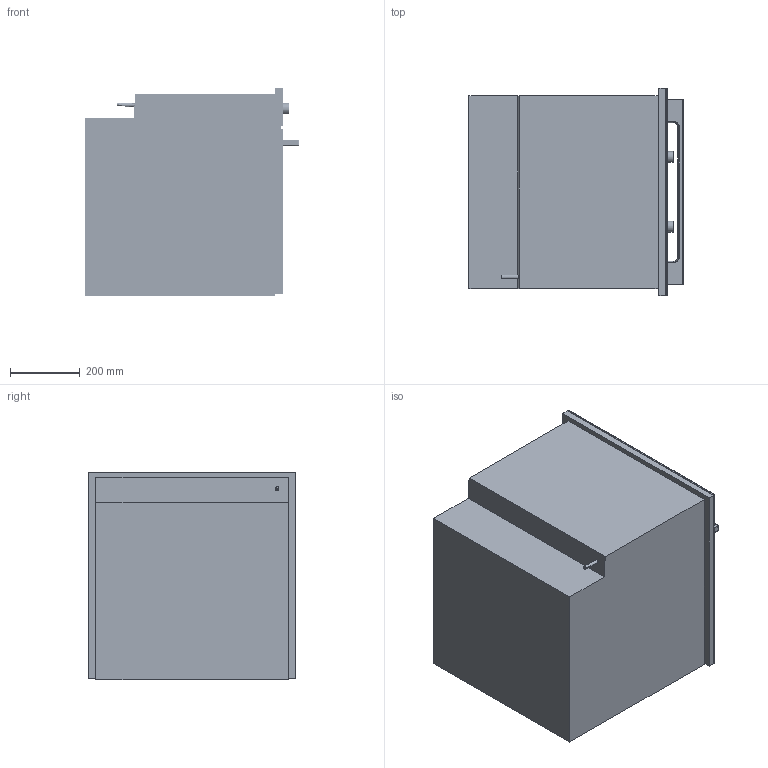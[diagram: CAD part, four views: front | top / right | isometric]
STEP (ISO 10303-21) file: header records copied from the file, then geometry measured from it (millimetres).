
FILE_DESCRIPTION(/* description */ (''),/* implementation_level */ '2;1');
FILE_NAME(/* name */ 'H6160BP_CLST',/* time_stamp */ '2013-04-20T16:07:35+02:00',/* author */ (''),/* organization */ (''),/* preprocessor_version */ 'ST-DEVELOPER v10',/* originating_system */ '',/* authorisation */ '');
FILE_SCHEMA (('AUTOMOTIVE_DESIGN_CC2'));
Length unit declared in the file: millimetre
Products named in the file (1): 1
Bounding box: 614.96 x 595 x 596.73 mm (x, y, z)
Volume: 102751421.6 mm3; surface area: 4209176.9 mm2
Topology: 44 solids, 45 shells, 254 faces, 451 edges, 278 vertices
Faces by surface type: bspline 254
Entity records: 88485 total; most frequent: CARTESIAN_POINT 85252, ORIENTED_EDGE 878, EDGE_CURVE 441, VERTEX_POINT 278, EDGE_LOOP 260, ADVANCED_FACE 254, FACE_OUTER_BOUND 254, B_SPLINE_CURVE_WITH_KNOTS 231
